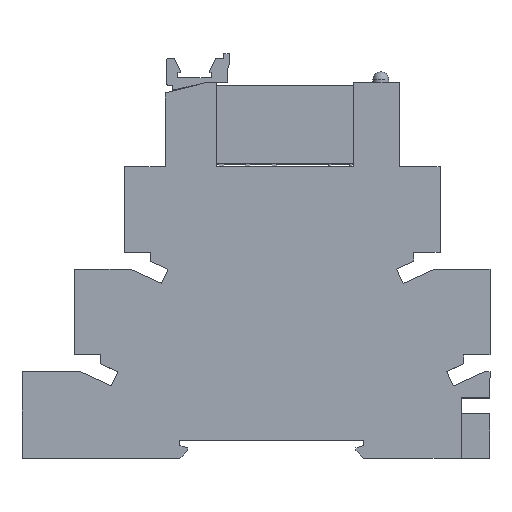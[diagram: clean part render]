
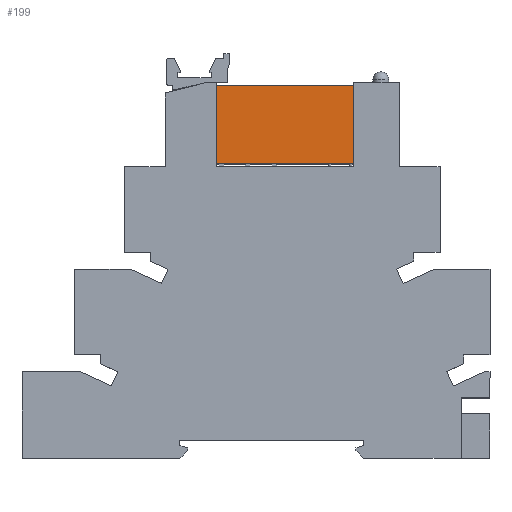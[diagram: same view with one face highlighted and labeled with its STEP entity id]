
A CAD part, top view. The second image highlights one B-rep face of the part: STEP entity #199.
In plain terms, the highlighted planar face has unit normal (0, 0, 1) as drawn and (0, 0, -1) by its records, which use the part's own axes.
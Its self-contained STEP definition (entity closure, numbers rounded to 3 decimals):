
#107 = VECTOR ( 'NONE', #2646, 1000. ) ;
#166 = VECTOR ( 'NONE', #3177, 1000. ) ;
#199 = ADVANCED_FACE ( 'NONE', ( #3505 ), #1958, .T. ) ;
#413 = CARTESIAN_POINT ( 'NONE',  ( -14., 7.5, 0. ) ) ;
#691 = CARTESIAN_POINT ( 'NONE',  ( 0., 0., 0. ) ) ;
#694 = ORIENTED_EDGE ( 'NONE', *, *, #4737, .F. ) ;
#699 = CARTESIAN_POINT ( 'NONE',  ( -14., 7.5, 0. ) ) ;
#714 = CARTESIAN_POINT ( 'NONE',  ( 14., -7.5, 0. ) ) ;
#770 = DIRECTION ( 'NONE',  ( -1., 0., 0. ) ) ;
#1064 = CARTESIAN_POINT ( 'NONE',  ( -14., -7.5, 0. ) ) ;
#1070 = VERTEX_POINT ( 'NONE', #699 ) ;
#1125 = VERTEX_POINT ( 'NONE', #5008 ) ;
#1195 = DIRECTION ( 'NONE',  ( 1., 0., 0. ) ) ;
#1220 = EDGE_CURVE ( 'NONE', #1125, #2365, #3159, .T. ) ;
#1604 = CARTESIAN_POINT ( 'NONE',  ( 14., 7.5, 0. ) ) ;
#1958 = PLANE ( 'NONE',  #3132 ) ;
#2314 = LINE ( 'NONE', #413, #166 ) ;
#2365 = VERTEX_POINT ( 'NONE', #714 ) ;
#2527 = EDGE_CURVE ( 'NONE', #4823, #1070, #2314, .T. ) ;
#2646 = DIRECTION ( 'NONE',  ( 0., -1., 0. ) ) ;
#2709 = EDGE_LOOP ( 'NONE', ( #694, #3896, #3808, #4289 ) ) ;
#2735 = DIRECTION ( 'NONE',  ( 0., 0., -1. ) ) ;
#2747 = CARTESIAN_POINT ( 'NONE',  ( -14., -7.5, 0. ) ) ;
#2870 = EDGE_CURVE ( 'NONE', #1070, #1125, #3799, .T. ) ;
#3132 = AXIS2_PLACEMENT_3D ( 'NONE', #691, #2735, #770 ) ;
#3159 = LINE ( 'NONE', #2747, #3403 ) ;
#3177 = DIRECTION ( 'NONE',  ( -1., 0., 0. ) ) ;
#3290 = VECTOR ( 'NONE', #4239, 1000. ) ;
#3371 = CARTESIAN_POINT ( 'NONE',  ( 14., -7.5, 0. ) ) ;
#3395 = LINE ( 'NONE', #3371, #3290 ) ;
#3403 = VECTOR ( 'NONE', #1195, 1000. ) ;
#3505 = FACE_OUTER_BOUND ( 'NONE', #2709, .T. ) ;
#3799 = LINE ( 'NONE', #1064, #107 ) ;
#3808 = ORIENTED_EDGE ( 'NONE', *, *, #2870, .F. ) ;
#3896 = ORIENTED_EDGE ( 'NONE', *, *, #1220, .F. ) ;
#4239 = DIRECTION ( 'NONE',  ( 0., 1., 0. ) ) ;
#4289 = ORIENTED_EDGE ( 'NONE', *, *, #2527, .F. ) ;
#4737 = EDGE_CURVE ( 'NONE', #2365, #4823, #3395, .T. ) ;
#4823 = VERTEX_POINT ( 'NONE', #1604 ) ;
#5008 = CARTESIAN_POINT ( 'NONE',  ( -14., -7.5, 0. ) ) ;
